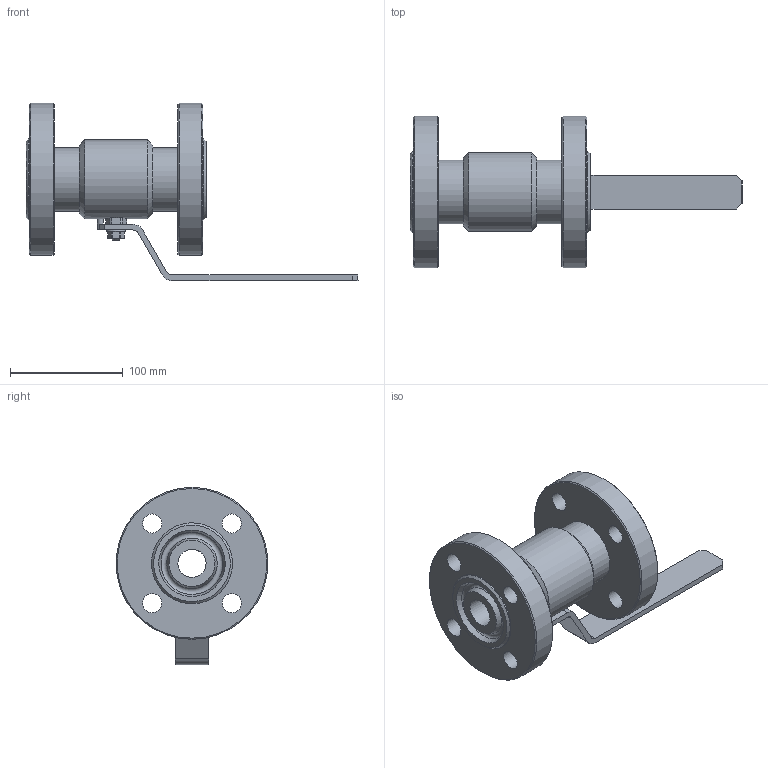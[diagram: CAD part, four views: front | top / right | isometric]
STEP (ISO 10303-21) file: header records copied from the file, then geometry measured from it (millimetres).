
FILE_DESCRIPTION(('STEP AP203'), '1');
FILE_NAME('ZARDP 025.100.27.P.stp', '2013-12-05T13:11:10', ('User'), ('Computer'), 'ASCON STEP Converter 1.3', 'Kompas 3D', '');
FILE_SCHEMA(('CONFIG_CONTROL_DESIGN','SUPPORT_RESOURCE_SCHEMA'));
Length unit declared in the file: millimetre
Products named in the file (1): 221
Bounding box: 295 x 135 x 157.5 mm (x, y, z)
Volume: 889137.6 mm3; surface area: 138908.6 mm2
Topology: 1 solids, 3 shells, 165 faces, 383 edges, 237 vertices
Faces by surface type: plane 82, cylinder 49, cone 31, torus 3
Full cylindrical faces by diameter (mm): 5 x2, 8 x2, 10.7 x1, 10.917 x1, 12 x1, 12.1 x1, 17 x8, 19.8 x1, 20 x3, 25 x2, 48.4 x1, 56.7 x2, 70 x1, 72 x2, 135 x2
Entity records: 5920 total; most frequent: CARTESIAN_POINT 1939, DIRECTION 855, ORIENTED_EDGE 766, EDGE_CURVE 383, AXIS2_PLACEMENT_3D 331, VERTEX_POINT 237, EDGE_LOOP 206, LINE 193
